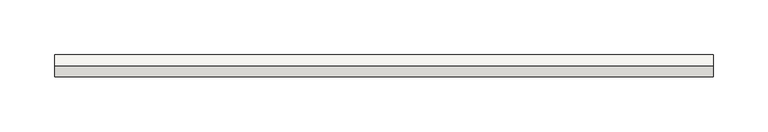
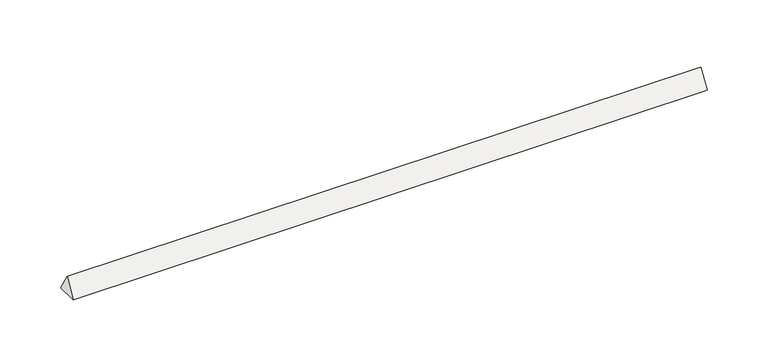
"""IFC4 building model written with IfcOpenShell, lengths in millimetres: covering geometry, SikaSwell® S-2 : SikaSwell® S-2 (sección triangular 20 mm)."""

from ifc_helpers import new_model, si_unit, frame, origin, place, context, project, spatial, polyline, outline, extrude, source, transform, mapped, element, save


def covering_5c4932a3(model_context):
    return source(origin(), model_context, "Body", "SweptSolid", [
        extrude(outline(polyline([(-10.0, 0.0), (0.0, 17.3205081), (10.0, 0.0), (-10.0, 0.0)])), frame((0.0, 0.0, 0.0), z_axis=(1.0, 0.0, 0.0), x_axis=(0.0, 1.0, 0.0)), (0.0, 0.0, 1.0), 600.0),
    ])


if __name__ == "__main__":
    model = new_model("IFC4")
    model_context = context("Model", 3, world=origin())
    ifc_project = project(units=[si_unit("LENGTHUNIT", "METRE", prefix="MILLI")], contexts=[model_context])
    site = spatial("IfcSite", under=ifc_project)
    building = spatial("IfcBuilding", under=site)
    placement = place(None, origin())
    covering_shape = covering_5c4932a3(model_context)
    element("IfcCovering", 1, ObjectType="SikaSwell® S-2 : SikaSwell® S-2 (sección triangular 20 mm)", at=placement, inside=building, context=model_context, shape_type="MappedRepresentation", body=[
        mapped(covering_shape, transform((0.0, 0.0, 0.0), x_axis=(1.0, 0.0, 0.0), y_axis=(0.0, 1.0, 0.0), z_axis=(0.0, 0.0, 1.0))),
    ])
    save(model, "model.ifc")
